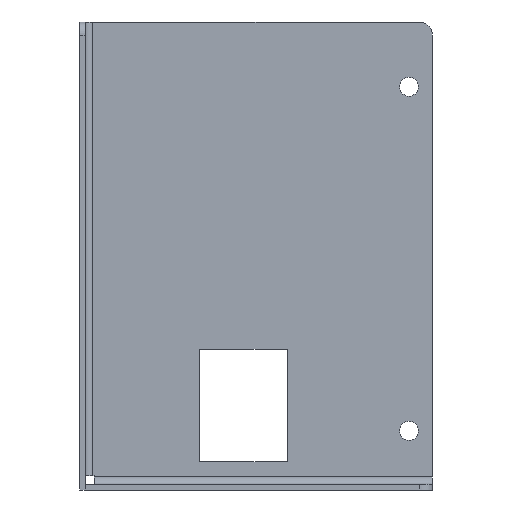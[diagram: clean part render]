
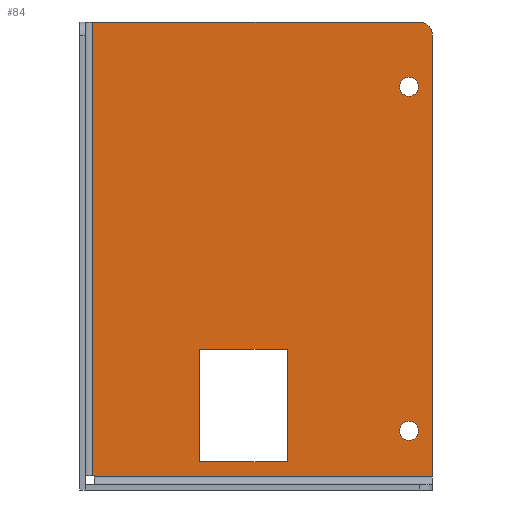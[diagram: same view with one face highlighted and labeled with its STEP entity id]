
A CAD part, front view. The second image highlights one B-rep face of the part: STEP entity #84.
In plain terms, the highlighted planar face has unit normal (0, -1, 0).
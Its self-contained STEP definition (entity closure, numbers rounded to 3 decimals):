
#10 = VERTEX_POINT ( 'NONE', #73 ) ;
#13 = AXIS2_PLACEMENT_3D ( 'NONE', #1080, #695, #68 ) ;
#19 = DIRECTION ( 'NONE',  ( 1., 0., 0. ) ) ;
#60 = LINE ( 'NONE', #574, #1307 ) ;
#68 = DIRECTION ( 'NONE',  ( 1., 0., 0. ) ) ;
#73 = CARTESIAN_POINT ( 'NONE',  ( 1.195, 27.56, 7.31 ) ) ;
#75 = VERTEX_POINT ( 'NONE', #1083 ) ;
#80 = CARTESIAN_POINT ( 'NONE',  ( -0.555, 27.56, -61.858 ) ) ;
#84 = ADVANCED_FACE ( 'NONE', ( #1357, #1574, #843, #458 ), #957, .F. ) ;
#86 = VECTOR ( 'NONE', #277, 1000. ) ;
#90 = CIRCLE ( 'NONE', #13, 1.6 ) ;
#145 = ORIENTED_EDGE ( 'NONE', *, *, #235, .T. ) ;
#149 = LINE ( 'NONE', #1383, #86 ) ;
#172 = CIRCLE ( 'NONE', #1078, 2.21 ) ;
#175 = EDGE_CURVE ( 'NONE', #1092, #877, #149, .T. ) ;
#185 = ORIENTED_EDGE ( 'NONE', *, *, #213, .T. ) ;
#187 = ORIENTED_EDGE ( 'NONE', *, *, #410, .T. ) ;
#191 = VERTEX_POINT ( 'NONE', #888 ) ;
#207 = AXIS2_PLACEMENT_3D ( 'NONE', #80, #1344, #585 ) ;
#213 = EDGE_CURVE ( 'NONE', #191, #666, #952, .T. ) ;
#228 = CARTESIAN_POINT ( 'NONE',  ( 0., 27.56, 6.35 ) ) ;
#233 = DIRECTION ( 'NONE',  ( 0., 1., 0. ) ) ;
#234 = LINE ( 'NONE', #997, #442 ) ;
#235 = EDGE_CURVE ( 'NONE', #652, #920, #767, .T. ) ;
#257 = EDGE_CURVE ( 'NONE', #877, #404, #494, .T. ) ;
#277 = DIRECTION ( 'NONE',  ( 0., 0., 1. ) ) ;
#280 = VERTEX_POINT ( 'NONE', #1158 ) ;
#292 = ORIENTED_EDGE ( 'NONE', *, *, #1448, .T. ) ;
#307 = CARTESIAN_POINT ( 'NONE',  ( -54.09, 27.56, 7.31 ) ) ;
#318 = DIRECTION ( 'NONE',  ( 0., 0., -1. ) ) ;
#335 = VECTOR ( 'NONE', #1004, 1000. ) ;
#336 = DIRECTION ( 'NONE',  ( 1., 0., 0. ) ) ;
#364 = CIRCLE ( 'NONE', #207, 1.6 ) ;
#370 = CARTESIAN_POINT ( 'NONE',  ( 1.045, 27.56, -3.65 ) ) ;
#376 = CARTESIAN_POINT ( 'NONE',  ( 0., 27.56, -48.073 ) ) ;
#404 = VERTEX_POINT ( 'NONE', #1341 ) ;
#410 = EDGE_CURVE ( 'NONE', #1403, #1009, #1224, .T. ) ;
#414 = EDGE_LOOP ( 'NONE', ( #1041, #1195, #1079, #187, #1291, #1382, #145 ) ) ;
#442 = VECTOR ( 'NONE', #1607, 1000. ) ;
#448 = EDGE_CURVE ( 'NONE', #280, #10, #172, .T. ) ;
#455 = CIRCLE ( 'NONE', #1368, 1.6 ) ;
#458 = FACE_BOUND ( 'NONE', #1257, .T. ) ;
#460 = DIRECTION ( 'NONE',  ( -1., 0., 0. ) ) ;
#484 = CARTESIAN_POINT ( 'NONE',  ( -0.555, 27.56, -3.65 ) ) ;
#488 = DIRECTION ( 'NONE',  ( 1., 0., 0. ) ) ;
#489 = CARTESIAN_POINT ( 'NONE',  ( -21.165, 27.56, 6.35 ) ) ;
#494 = LINE ( 'NONE', #376, #1497 ) ;
#532 = CARTESIAN_POINT ( 'NONE',  ( -53.85, 27.56, -69.408 ) ) ;
#536 = CARTESIAN_POINT ( 'NONE',  ( -54.09, 27.56, -69.408 ) ) ;
#559 = VERTEX_POINT ( 'NONE', #1429 ) ;
#563 = VERTEX_POINT ( 'NONE', #532 ) ;
#574 = CARTESIAN_POINT ( 'NONE',  ( 3.405, 27.56, 7.31 ) ) ;
#583 = VECTOR ( 'NONE', #1268, 1000. ) ;
#585 = DIRECTION ( 'NONE',  ( 1., 0., 0. ) ) ;
#589 = VECTOR ( 'NONE', #939, 1000. ) ;
#610 = CARTESIAN_POINT ( 'NONE',  ( -35.985, 27.56, -48.073 ) ) ;
#625 = CARTESIAN_POINT ( 'NONE',  ( -0.555, 27.56, -61.858 ) ) ;
#640 = DIRECTION ( 'NONE',  ( 1., 0., 0. ) ) ;
#652 = VERTEX_POINT ( 'NONE', #1420 ) ;
#656 = CARTESIAN_POINT ( 'NONE',  ( -35.985, 27.56, -67.116 ) ) ;
#666 = VERTEX_POINT ( 'NONE', #799 ) ;
#695 = DIRECTION ( 'NONE',  ( 0., 1., 0. ) ) ;
#725 = EDGE_CURVE ( 'NONE', #75, #1092, #1200, .T. ) ;
#731 = DIRECTION ( 'NONE',  ( 0., 0., -1. ) ) ;
#756 = DIRECTION ( 'NONE',  ( 0., 1., 0. ) ) ;
#765 = EDGE_CURVE ( 'NONE', #666, #191, #364, .T. ) ;
#767 = LINE ( 'NONE', #1484, #583 ) ;
#799 = CARTESIAN_POINT ( 'NONE',  ( -2.155, 27.56, -61.858 ) ) ;
#814 = CARTESIAN_POINT ( 'NONE',  ( 0., 27.56, -67.116 ) ) ;
#825 = CARTESIAN_POINT ( 'NONE',  ( 0., 27.56, -69.408 ) ) ;
#843 = FACE_BOUND ( 'NONE', #1468, .T. ) ;
#851 = LINE ( 'NONE', #1100, #335 ) ;
#864 = EDGE_CURVE ( 'NONE', #404, #75, #1477, .T. ) ;
#866 = DIRECTION ( 'NONE',  ( 0., 1., 0. ) ) ;
#877 = VERTEX_POINT ( 'NONE', #610 ) ;
#883 = EDGE_CURVE ( 'NONE', #563, #652, #234, .T. ) ;
#887 = VERTEX_POINT ( 'NONE', #370 ) ;
#888 = CARTESIAN_POINT ( 'NONE',  ( 1.045, 27.56, -61.858 ) ) ;
#920 = VERTEX_POINT ( 'NONE', #1131 ) ;
#939 = DIRECTION ( 'NONE',  ( 1., 0., 0. ) ) ;
#942 = EDGE_CURVE ( 'NONE', #1403, #10, #851, .T. ) ;
#952 = CIRCLE ( 'NONE', #977, 1.6 ) ;
#957 = PLANE ( 'NONE',  #1597 ) ;
#975 = DIRECTION ( 'NONE',  ( 1., 0., 0. ) ) ;
#977 = AXIS2_PLACEMENT_3D ( 'NONE', #625, #756, #488 ) ;
#992 = ORIENTED_EDGE ( 'NONE', *, *, #1595, .T. ) ;
#997 = CARTESIAN_POINT ( 'NONE',  ( -53.85, 27.56, 6.35 ) ) ;
#1004 = DIRECTION ( 'NONE',  ( 1., 0., 0. ) ) ;
#1009 = VERTEX_POINT ( 'NONE', #536 ) ;
#1041 = ORIENTED_EDGE ( 'NONE', *, *, #1365, .F. ) ;
#1078 = AXIS2_PLACEMENT_3D ( 'NONE', #1386, #1125, #19 ) ;
#1079 = ORIENTED_EDGE ( 'NONE', *, *, #942, .F. ) ;
#1080 = CARTESIAN_POINT ( 'NONE',  ( -0.555, 27.56, -3.65 ) ) ;
#1083 = CARTESIAN_POINT ( 'NONE',  ( -21.165, 27.56, -67.116 ) ) ;
#1090 = VECTOR ( 'NONE', #460, 1000. ) ;
#1092 = VERTEX_POINT ( 'NONE', #656 ) ;
#1100 = CARTESIAN_POINT ( 'NONE',  ( 3.405, 27.56, 7.31 ) ) ;
#1106 = CARTESIAN_POINT ( 'NONE',  ( -54.09, 27.56, 6.35 ) ) ;
#1125 = DIRECTION ( 'NONE',  ( 0., -1., 0. ) ) ;
#1127 = ORIENTED_EDGE ( 'NONE', *, *, #725, .T. ) ;
#1131 = CARTESIAN_POINT ( 'NONE',  ( 3.405, 27.56, -69.648 ) ) ;
#1147 = VECTOR ( 'NONE', #731, 1000. ) ;
#1158 = CARTESIAN_POINT ( 'NONE',  ( 3.405, 27.56, 5.1 ) ) ;
#1195 = ORIENTED_EDGE ( 'NONE', *, *, #448, .T. ) ;
#1200 = LINE ( 'NONE', #814, #1090 ) ;
#1224 = LINE ( 'NONE', #1106, #1527 ) ;
#1257 = EDGE_LOOP ( 'NONE', ( #1479, #1362, #1127, #1349 ) ) ;
#1268 = DIRECTION ( 'NONE',  ( 1., 0., 0. ) ) ;
#1291 = ORIENTED_EDGE ( 'NONE', *, *, #1381, .T. ) ;
#1307 = VECTOR ( 'NONE', #318, 1000. ) ;
#1341 = CARTESIAN_POINT ( 'NONE',  ( -21.165, 27.56, -48.073 ) ) ;
#1344 = DIRECTION ( 'NONE',  ( 0., 1., 0. ) ) ;
#1349 = ORIENTED_EDGE ( 'NONE', *, *, #175, .T. ) ;
#1357 = FACE_OUTER_BOUND ( 'NONE', #414, .T. ) ;
#1361 = DIRECTION ( 'NONE',  ( 0., 0., -1. ) ) ;
#1362 = ORIENTED_EDGE ( 'NONE', *, *, #864, .T. ) ;
#1365 = EDGE_CURVE ( 'NONE', #280, #920, #60, .T. ) ;
#1368 = AXIS2_PLACEMENT_3D ( 'NONE', #484, #866, #975 ) ;
#1381 = EDGE_CURVE ( 'NONE', #1009, #563, #1587, .T. ) ;
#1382 = ORIENTED_EDGE ( 'NONE', *, *, #883, .T. ) ;
#1383 = CARTESIAN_POINT ( 'NONE',  ( -35.985, 27.56, 6.35 ) ) ;
#1386 = CARTESIAN_POINT ( 'NONE',  ( 1.195, 27.56, 5.1 ) ) ;
#1403 = VERTEX_POINT ( 'NONE', #307 ) ;
#1420 = CARTESIAN_POINT ( 'NONE',  ( -53.85, 27.56, -69.648 ) ) ;
#1429 = CARTESIAN_POINT ( 'NONE',  ( -2.155, 27.56, -3.65 ) ) ;
#1448 = EDGE_CURVE ( 'NONE', #559, #887, #90, .T. ) ;
#1468 = EDGE_LOOP ( 'NONE', ( #185, #1503 ) ) ;
#1477 = LINE ( 'NONE', #489, #1147 ) ;
#1479 = ORIENTED_EDGE ( 'NONE', *, *, #257, .T. ) ;
#1484 = CARTESIAN_POINT ( 'NONE',  ( 0., 27.56, -69.648 ) ) ;
#1489 = EDGE_LOOP ( 'NONE', ( #992, #292 ) ) ;
#1497 = VECTOR ( 'NONE', #640, 1000. ) ;
#1503 = ORIENTED_EDGE ( 'NONE', *, *, #765, .T. ) ;
#1527 = VECTOR ( 'NONE', #1361, 1000. ) ;
#1574 = FACE_BOUND ( 'NONE', #1489, .T. ) ;
#1587 = LINE ( 'NONE', #825, #589 ) ;
#1595 = EDGE_CURVE ( 'NONE', #887, #559, #455, .T. ) ;
#1597 = AXIS2_PLACEMENT_3D ( 'NONE', #228, #233, #336 ) ;
#1607 = DIRECTION ( 'NONE',  ( 0., 0., -1. ) ) ;
